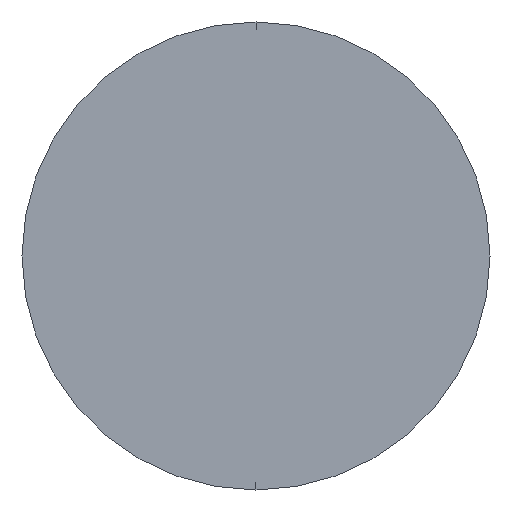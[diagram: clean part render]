
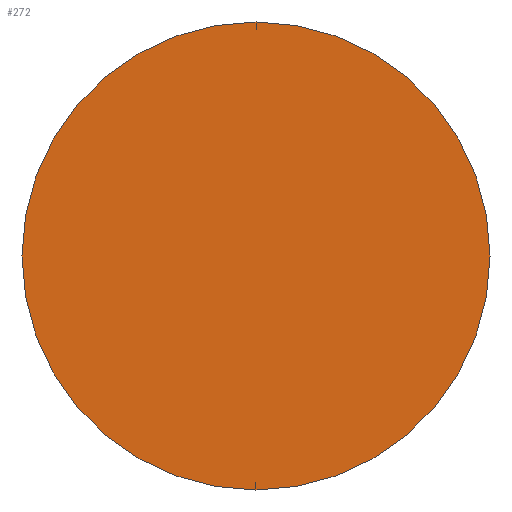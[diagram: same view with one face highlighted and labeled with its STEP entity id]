
A CAD part, left-side view. The second image highlights one B-rep face of the part: STEP entity #272.
In plain terms, the highlighted planar face has unit normal (-1, 0, 0).
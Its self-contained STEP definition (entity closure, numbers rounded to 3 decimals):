
#2 = DIRECTION ( 'NONE',  ( 0., 0., 1. ) ) ;
#5 = AXIS2_PLACEMENT_3D ( 'NONE', #286, #172, #38 ) ;
#12 = CIRCLE ( 'NONE', #78, 2.75 ) ;
#20 = DIRECTION ( 'NONE',  ( -1., 0., 0. ) ) ;
#35 = CARTESIAN_POINT ( 'NONE',  ( 0., 0., -2.75 ) ) ;
#38 = DIRECTION ( 'NONE',  ( 0., 0., 1. ) ) ;
#44 = VERTEX_POINT ( 'NONE', #147 ) ;
#51 = ORIENTED_EDGE ( 'NONE', *, *, #254, .T. ) ;
#78 = AXIS2_PLACEMENT_3D ( 'NONE', #91, #20, #2 ) ;
#85 = AXIS2_PLACEMENT_3D ( 'NONE', #153, #148, #197 ) ;
#91 = CARTESIAN_POINT ( 'NONE',  ( 0., 0., 0. ) ) ;
#101 = PLANE ( 'NONE',  #85 ) ;
#139 = CIRCLE ( 'NONE', #5, 2.75 ) ;
#144 = VERTEX_POINT ( 'NONE', #35 ) ;
#147 = CARTESIAN_POINT ( 'NONE',  ( 0., 0., 2.75 ) ) ;
#148 = DIRECTION ( 'NONE',  ( 1., 0., 0. ) ) ;
#153 = CARTESIAN_POINT ( 'NONE',  ( 0., 0., 0. ) ) ;
#172 = DIRECTION ( 'NONE',  ( -1., 0., 0. ) ) ;
#173 = EDGE_CURVE ( 'NONE', #144, #44, #139, .T. ) ;
#197 = DIRECTION ( 'NONE',  ( 0., 0., -1. ) ) ;
#228 = EDGE_LOOP ( 'NONE', ( #51, #244 ) ) ;
#242 = FACE_OUTER_BOUND ( 'NONE', #228, .T. ) ;
#244 = ORIENTED_EDGE ( 'NONE', *, *, #173, .T. ) ;
#254 = EDGE_CURVE ( 'NONE', #44, #144, #12, .T. ) ;
#272 = ADVANCED_FACE ( 'NONE', ( #242 ), #101, .F. ) ;
#286 = CARTESIAN_POINT ( 'NONE',  ( 0., 0., 0. ) ) ;
